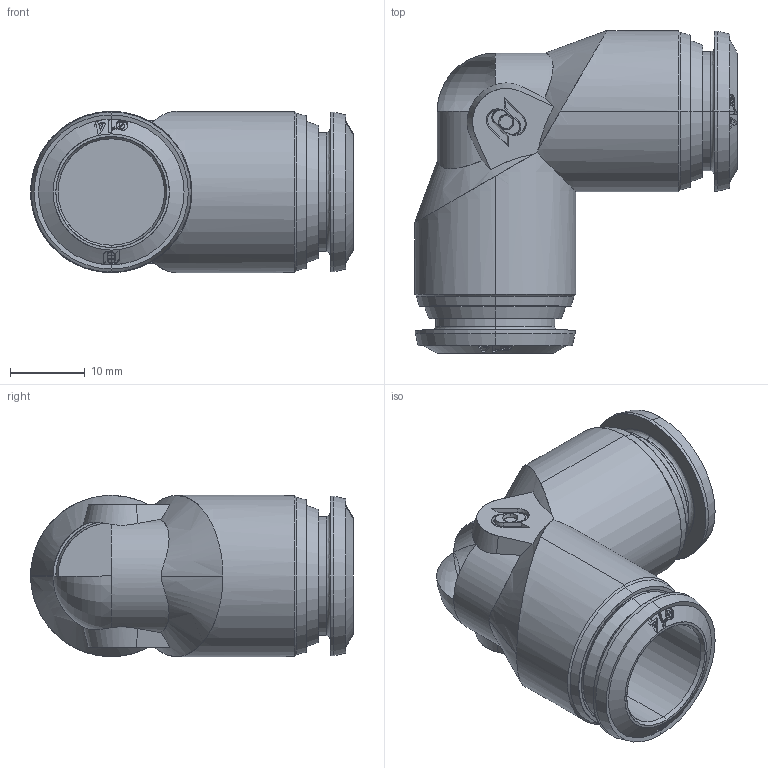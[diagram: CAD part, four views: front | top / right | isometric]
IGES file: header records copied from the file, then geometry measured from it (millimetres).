
Start section: SolidWorks IGES file using analytic representation for surfaces
Global section: file name: K:\Disegni Esecutivi\Serie 50000\ASSIEMI\50130\ASSIEMI_PIENI_50130\5013000008.IGS; native system: SolidWorks 2007; preprocessor: SolidWorks 2007; author: cad02; date: 071011.105402; units: millimetre
Bounding box: 43.05 x 43.05 x 21.5 mm (x, y, z)
Surface area: 7803.6 mm2 (no closed solid volume)
Topology: 0 solids, 0 shells, 288 faces, 3587 edges, 3585 vertices
Faces by surface type: bspline 170, revolution 118
